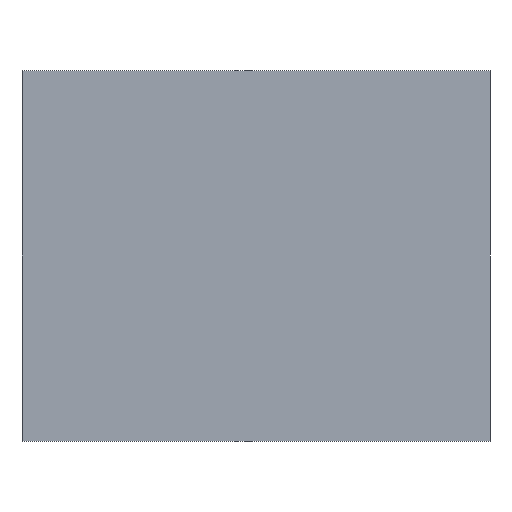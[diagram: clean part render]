
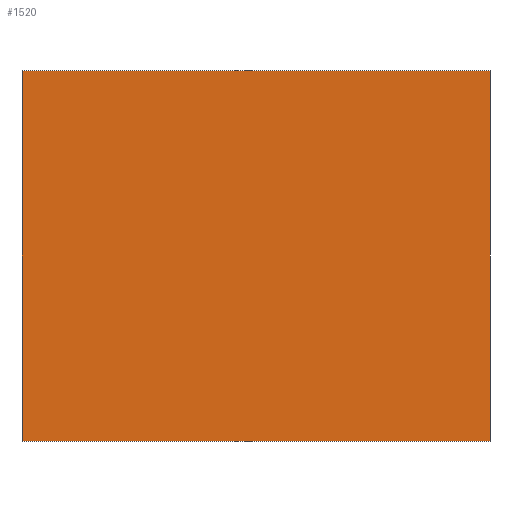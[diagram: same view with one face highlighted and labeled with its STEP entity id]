
A CAD part, front view. The second image highlights one B-rep face of the part: STEP entity #1520.
In plain terms, the highlighted planar face has unit normal (0, -1, 0).
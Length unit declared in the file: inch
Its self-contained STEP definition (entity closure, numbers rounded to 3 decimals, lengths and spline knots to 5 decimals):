
#95 = VERTEX_POINT ( 'NONE', #1559 ) ;
#185 = ORIENTED_EDGE ( 'NONE', *, *, #385, .F. ) ;
#244 = VECTOR ( 'NONE', #1265, 39.37008 ) ;
#344 = CARTESIAN_POINT ( 'NONE',  ( -5.24488, -5.46, -4.15488 ) ) ;
#361 = VECTOR ( 'NONE', #1661, 39.37008 ) ;
#385 = EDGE_CURVE ( 'NONE', #740, #1589, #609, .T. ) ;
#425 = AXIS2_PLACEMENT_3D ( 'NONE', #720, #1750, #1172 ) ;
#448 = CARTESIAN_POINT ( 'NONE',  ( -5.24488, -5.46, 4.15488 ) ) ;
#465 = CARTESIAN_POINT ( 'NONE',  ( 5.24488, -5.46, -4.15488 ) ) ;
#487 = LINE ( 'NONE', #344, #361 ) ;
#528 = LINE ( 'NONE', #1258, #1893 ) ;
#609 = LINE ( 'NONE', #863, #802 ) ;
#641 = CARTESIAN_POINT ( 'NONE',  ( 5.24488, -5.46, 4.15488 ) ) ;
#656 = LINE ( 'NONE', #1738, #244 ) ;
#717 = EDGE_CURVE ( 'NONE', #95, #1768, #487, .T. ) ;
#720 = CARTESIAN_POINT ( 'NONE',  ( -4.935, -5.46, -3.845 ) ) ;
#740 = VERTEX_POINT ( 'NONE', #641 ) ;
#802 = VECTOR ( 'NONE', #1943, 39.37008 ) ;
#819 = EDGE_CURVE ( 'NONE', #1589, #95, #656, .T. ) ;
#862 = FACE_OUTER_BOUND ( 'NONE', #1049, .T. ) ;
#863 = CARTESIAN_POINT ( 'NONE',  ( 5.24488, -5.46, -4.15488 ) ) ;
#1049 = EDGE_LOOP ( 'NONE', ( #1709, #1260, #185, #1177 ) ) ;
#1172 = DIRECTION ( 'NONE',  ( 0., 0., -1. ) ) ;
#1177 = ORIENTED_EDGE ( 'NONE', *, *, #1271, .F. ) ;
#1258 = CARTESIAN_POINT ( 'NONE',  ( -5.24488, -5.46, 4.15488 ) ) ;
#1260 = ORIENTED_EDGE ( 'NONE', *, *, #819, .F. ) ;
#1265 = DIRECTION ( 'NONE',  ( -1., 0., 0. ) ) ;
#1271 = EDGE_CURVE ( 'NONE', #1768, #740, #528, .T. ) ;
#1520 = ADVANCED_FACE ( 'NONE', ( #862 ), #1786, .T. ) ;
#1554 = DIRECTION ( 'NONE',  ( 1., 0., 0. ) ) ;
#1559 = CARTESIAN_POINT ( 'NONE',  ( -5.24488, -5.46, -4.15488 ) ) ;
#1589 = VERTEX_POINT ( 'NONE', #465 ) ;
#1661 = DIRECTION ( 'NONE',  ( 0., 0., 1. ) ) ;
#1709 = ORIENTED_EDGE ( 'NONE', *, *, #717, .F. ) ;
#1738 = CARTESIAN_POINT ( 'NONE',  ( -5.24488, -5.46, -4.15488 ) ) ;
#1750 = DIRECTION ( 'NONE',  ( 0., -1., 0. ) ) ;
#1768 = VERTEX_POINT ( 'NONE', #448 ) ;
#1786 = PLANE ( 'NONE',  #425 ) ;
#1893 = VECTOR ( 'NONE', #1554, 39.37008 ) ;
#1943 = DIRECTION ( 'NONE',  ( 0., 0., -1. ) ) ;
